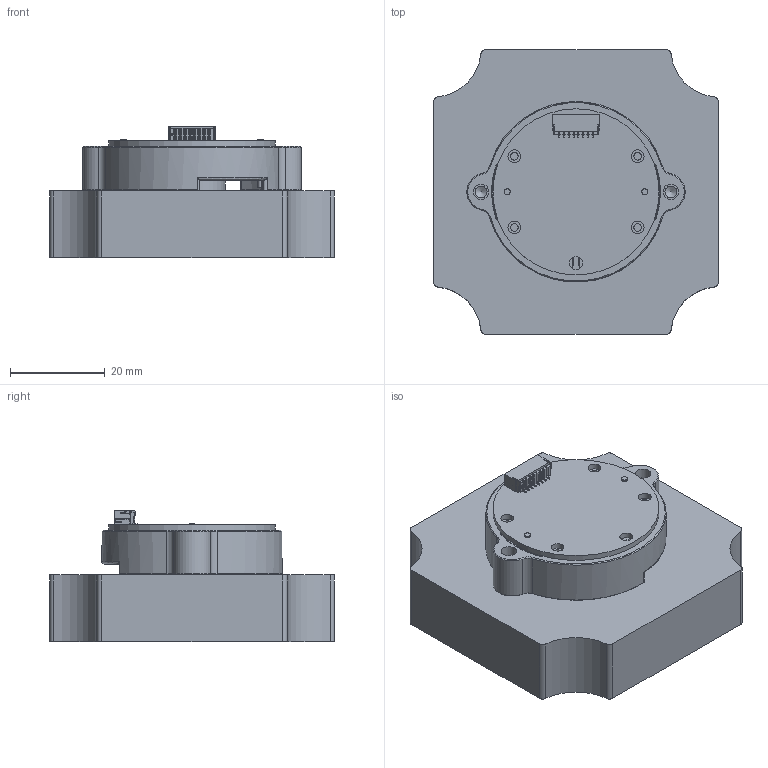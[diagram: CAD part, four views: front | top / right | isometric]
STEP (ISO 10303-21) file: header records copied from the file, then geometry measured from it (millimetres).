
FILE_DESCRIPTION( ('This file contains a STEP AP42 implementation' ,'as created by ZW3D STEP Interface translator.') ,'2;1' );
FILE_NAME( 'MAS46L8产品3D图.stp' ,'261023.1626 5', (''), ('ZWCAD Software Co.'), 'Version 1.0', 'ZW3D to STEP translator', '' );
FILE_SCHEMA(('AUTOMOTIVE_DESIGN { 1 0 10303 214 1 1 1 1 }'));
Length unit declared in the file: millimetre
Products named in the file (11): 0; MAS46L8莉こ3D芞; JH-WL-01-010_棠晤60呿蹋盓殤_A02; pcb蚾饜35湮苤傷赽; PCBA啣35綠1.2- 萵掛; оƬ3x3x1; 苤傷赽; 60萇儂-4.7mm堤粣-傻; 耳8棠沺郪璃; 耳8棠詩迖; 棠詩
Assembly tree (9 placements, depth 3):
  0
  MAS46L8莉こ3D芞
    JH-WL-01-010_棠晤60呿蹋盓殤_A02
    pcb蚾饜35湮苤傷赽
      PCBA啣35綠1.2- 萵掛
      оƬ3x3x1
      苤傷赽
    60萇儂-4.7mm堤粣-傻
    耳8棠沺郪璃
      耳8棠詩迖
      棠詩
Bounding box: 60 x 60 x 27.65 mm (x, y, z)
Volume: 51447.9 mm3; surface area: 18797.2 mm2
Topology: 8 solids, 8 shells, 1164 faces, 3410 edges, 2183 vertices
Faces by surface type: plane 620, cylinder 395, cone 137, torus 8, bspline 4
Full cylindrical faces by diameter (mm): 1.25 x4, 1.3 x3, 1.6 x4, 2.5 x2, 2.7 x5, 3 x4, 3.3 x2, 8 x1, 13 x1, 15 x1, 23.2 x1, 35 x1
Entity records: 43284 total; most frequent: CARTESIAN_POINT 9916, ORIENTED_EDGE 6816, DIRECTION 6653, EDGE_CURVE 3408, VECTOR 2315, LINE 2315, VERTEX_POINT 2183, AXIS2_PLACEMENT_3D 2169
